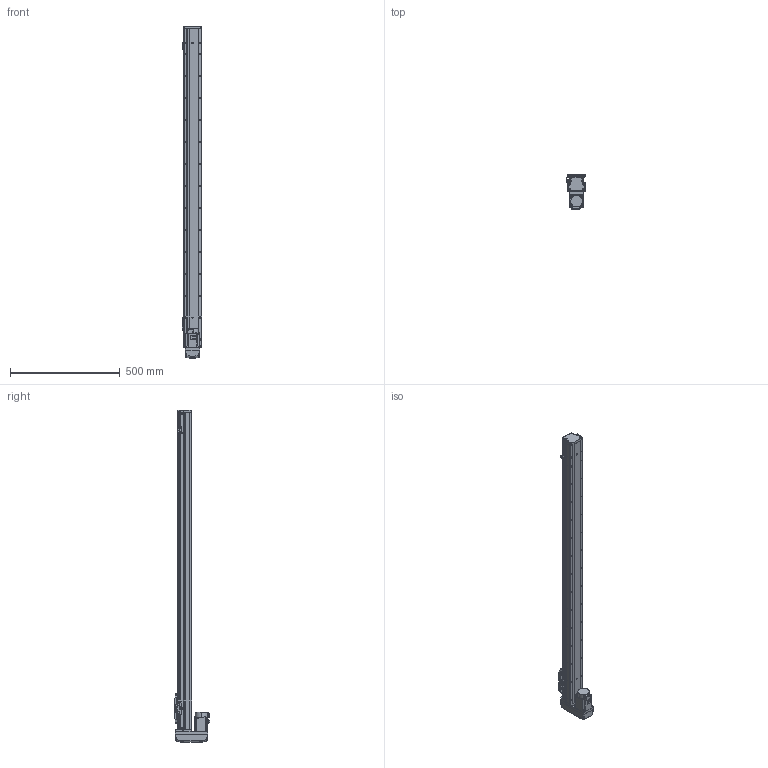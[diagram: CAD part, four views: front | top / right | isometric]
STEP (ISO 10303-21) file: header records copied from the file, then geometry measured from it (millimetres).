
FILE_DESCRIPTION (( 'STEP AP203' ), '1' );
FILE_NAME ('GTH8-1250-BM-M20-C4.step', '2023-08-28T00:57:49', ( '微软用户' ), ( '微软中国' ), 'SwSTEP 2.0', 'SolidWorks 2020', '' );
FILE_SCHEMA (( 'CONFIG_CONTROL_DESIGN' ));
Length unit declared in the file: millimetre
Products named in the file (18): 三菱伺服电机[HG-KN23J-S100]; GTH80-003; GBT 70.1-M4×16; CTHA86-015-1_CTHA86-015-2; GTH80-004; GTH80-028; CTHA86-033_M40B; GTH80-006; GTH50-024; GTH8-1250-BM-M20-C4; GTH80-013; GTH50-023; GBT 70.3-M3℅6; GBT96.1-2002 3×0.8; GTH80-022; BTH-M3X5X6; GTH80-001_1250; GBT 70.1-M3℅6
Assembly tree (57 placements, depth 2):
  GTH8-1250-BM-M20-C4
    GTH80-001_1250
    GTH80-003
    GTH80-004
    GTH80-006
    GTH80-013
    GBT 70.3-M3℅6  x4
    GTH80-022
    GBT 70.1-M3℅6  x14
    GBT 70.1-M4×16  x8
    GTH80-028  x2
    GTH50-024  x3
    GTH50-023  x3
    GBT96.1-2002 3×0.8  x6
    BTH-M3X5X6  x8
    三菱伺服电机[HG-KN23J-S100]
    CTHA86-015-1_CTHA86-015-2
    CTHA86-033_M40B
Bounding box: 86.9 x 160.3 x 1511 mm (x, y, z)
Volume: 7150237 mm3; surface area: 675768.5 mm2
Topology: 59 solids, 59 shells, 2216 faces, 5173 edges, 3181 vertices
Faces by surface type: plane 1151, cylinder 631, cone 260, torus 158, bspline 8, sphere 8
Entity records: 42491 total; most frequent: CARTESIAN_POINT 9323, DIRECTION 6324, ORIENTED_EDGE 6164, EDGE_CURVE 3082, AXIS2_PLACEMENT_3D 2190, VERTEX_POINT 1956, LINE 1944, VECTOR 1944
